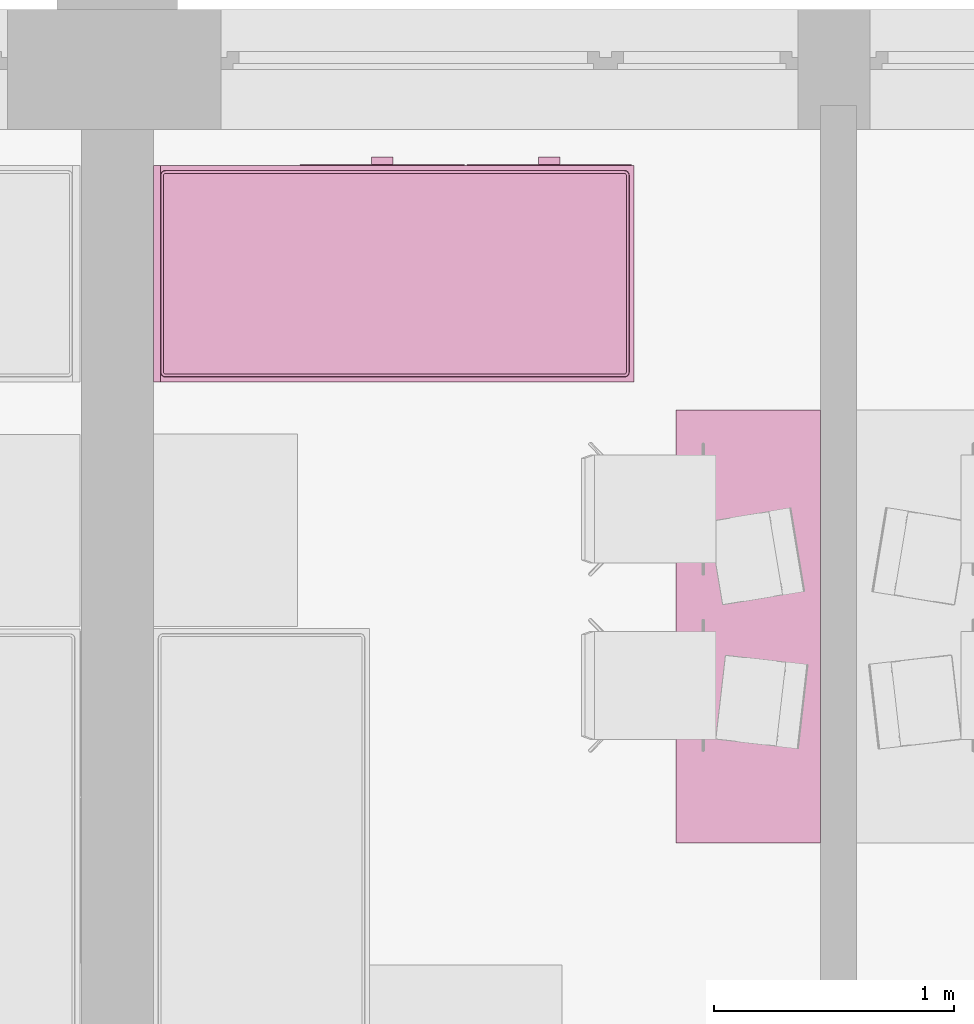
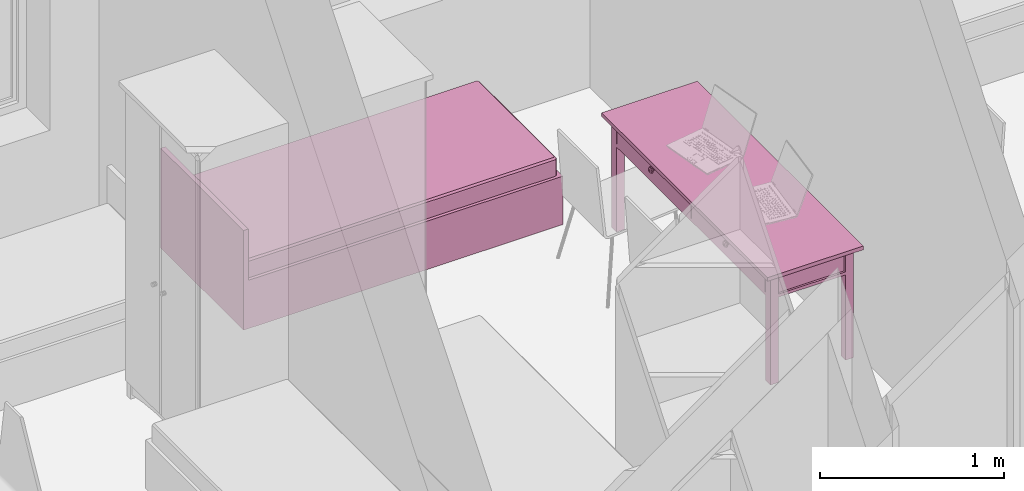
# One storey, part 92 of 165: 2 furnishings.
"""IFC2X3 building model written with IfcOpenShell, lengths in millimetres."""

from ifc_helpers import new_model, entity, si_unit, converted_unit, money_unit, direction, frame, origin_with_axes, place, context, subcontext, project, spatial, faceted_brep, source, transform, mapped, material, material_list, type_object, element, save


model = new_model("IFC2X3")

# Units and contexts
model_context = context("Model", 3, precision=1e-05, world=origin_with_axes(), true_north=direction((0.0, 1.0)))
body_context = subcontext(model_context, "Body", "Model", "MODEL_VIEW")
ifc_project = project(units=[si_unit("LENGTHUNIT", "METRE", prefix="MILLI"), si_unit("AREAUNIT", "SQUARE_METRE"), si_unit("VOLUMEUNIT", "CUBIC_METRE"), converted_unit("PLANEANGLEUNIT", "DEGREE", entity("IfcPlaneAngleMeasure", 0.0174532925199), si_unit("PLANEANGLEUNIT", "RADIAN"), dimensions=[0, 0, 0, 0, 0, 0, 0]), si_unit("SOLIDANGLEUNIT", "STERADIAN"), money_unit("USD"), converted_unit("TIMEUNIT", "Year", entity("IfcTimeMeasure", 31556926.0), si_unit("TIMEUNIT", "SECOND"), dimensions=[0, 0, 0, 0, 0, 0, 0]), si_unit("MASSUNIT", "GRAM"), si_unit("THERMODYNAMICTEMPERATUREUNIT", "DEGREE_CELSIUS"), si_unit("LUMINOUSINTENSITYUNIT", "LUMEN")], contexts=[model_context])

# Site, building, storey
site_placement = place(None, origin_with_axes())
site = spatial("IfcSite", under=ifc_project, at=site_placement, Name="Site", CompositionType="ELEMENT")
building_placement = place(site_placement, origin_with_axes())
building = spatial("IfcBuilding", under=site, at=building_placement, Name="Building", CompositionType="ELEMENT")
storey_placement = place(building_placement, frame((0.0, 0.0, 6300.0), z_axis=(0.0, 0.0, 1.0), x_axis=(1.0, 0.0, 0.0)))
storey = spatial("IfcBuildingStorey", under=building, at=storey_placement, Name="4KORRUS", CompositionType="ELEMENT", Elevation=6300.0)

# Furnishings
ifc_material = material(Name="Background")
ifc_material_list = material_list([ifc_material])
furnishing_element_type_1 = type_object("IfcFurnishingElementType", Name="Bed 19")
shared_shape_1 = source(origin_with_axes(), body_context, "Body", "Brep", [
    faceted_brep([(900.0, 1970.0, 0.0), (0.0, 1970.0, 0.0), (0.0, 2000.0, 0.0), (900.0, 2000.0, 0.0), (900.0, 1970.0, 660.0), (0.0, 1970.0, 660.0), (0.0, 2000.0, 660.0), (900.0, 2000.0, 660.0)], [[[0, 1, 2, 3]], [[1, 0, 4, 5]], [[2, 1, 5, 6]], [[3, 2, 6, 7]], [[0, 3, 7, 4]], [[5, 4, 7, 6]]]),
    faceted_brep([(900.0, 0.0, 0.0), (0.0, 0.0, 0.0), (0.0, 1970.0, 0.0), (900.0, 1970.0, 0.0), (900.0, 0.0, 320.0), (0.0, 0.0, 320.0), (0.0, 1970.0, 320.0), (900.0, 1970.0, 320.0)], [[[0, 1, 2, 3]], [[1, 0, 4, 5]], [[2, 1, 5, 6]], [[3, 2, 6, 7]], [[0, 3, 7, 4]], [[5, 4, 7, 6]]]),
    faceted_brep([(905.0, 10.0, 30.0), (900.0, 10.0, 30.0), (900.0, 695.0, 30.0), (905.0, 695.0, 30.0), (905.0, 10.0, 290.0), (900.0, 10.0, 290.0), (900.0, 695.0, 290.0), (905.0, 695.0, 290.0)], [[[0, 1, 2, 3]], [[1, 0, 4, 5]], [[2, 1, 5, 6]], [[3, 2, 6, 7]], [[0, 3, 7, 4]], [[5, 4, 7, 6]]]),
    faceted_brep([(935.0, 307.5, 150.0), (905.0, 307.5, 150.0), (905.0, 397.5, 150.0), (935.0, 397.5, 150.0), (935.0, 307.5, 170.0), (905.0, 307.5, 170.0), (905.0, 397.5, 170.0), (935.0, 397.5, 170.0)], [[[0, 1, 2, 3]], [[1, 0, 4, 5]], [[2, 1, 5, 6]], [[3, 2, 6, 7]], [[0, 3, 7, 4]], [[5, 4, 7, 6]]]),
    faceted_brep([(905.0, 705.0, 30.0), (900.0, 705.0, 30.0), (900.0, 1390.0, 30.0), (905.0, 1390.0, 30.0), (905.0, 705.0, 290.0), (900.0, 705.0, 290.0), (900.0, 1390.0, 290.0), (905.0, 1390.0, 290.0)], [[[0, 1, 2, 3]], [[1, 0, 4, 5]], [[2, 1, 5, 6]], [[3, 2, 6, 7]], [[0, 3, 7, 4]], [[5, 4, 7, 6]]]),
    faceted_brep([(935.0, 1002.5, 150.0), (905.0, 1002.5, 150.0), (905.0, 1092.5, 150.0), (935.0, 1092.5, 150.0), (935.0, 1002.5, 170.0), (905.0, 1002.5, 170.0), (905.0, 1092.5, 170.0), (935.0, 1092.5, 170.0)], [[[0, 1, 2, 3]], [[1, 0, 4, 5]], [[2, 1, 5, 6]], [[3, 2, 6, 7]], [[0, 3, 7, 4]], [[5, 4, 7, 6]]]),
    faceted_brep([(20.0, 40.0, 350.0), (20.0, 1950.0, 350.0), (21.522, 1957.654, 350.0), (25.858, 1964.142, 350.0), (32.346, 1968.478, 350.0), (40.0, 1970.0, 350.0), (860.0, 1970.0, 350.0), (867.654, 1968.478, 350.0), (874.142, 1964.142, 350.0), (878.478, 1957.654, 350.0), (880.0, 1950.0, 350.0), (880.0, 40.0, 350.0), (878.478, 32.346, 350.0), (874.142, 25.858, 350.0), (867.654, 21.522, 350.0), (860.0, 20.0, 350.0), (40.0, 20.0, 350.0), (32.346, 21.522, 350.0), (25.858, 25.858, 350.0), (21.522, 32.346, 350.0), (20.0, 40.0, 420.0), (20.0, 1950.0, 420.0), (21.522, 1957.654, 420.0), (25.858, 1964.142, 420.0), (32.346, 1968.478, 420.0), (40.0, 1970.0, 420.0), (860.0, 1970.0, 420.0), (867.654, 1968.478, 420.0), (874.142, 1964.142, 420.0), (878.478, 1957.654, 420.0), (880.0, 1950.0, 420.0), (880.0, 40.0, 420.0), (878.478, 32.346, 420.0), (874.142, 25.858, 420.0), (867.654, 21.522, 420.0), (860.0, 20.0, 420.0), (40.0, 20.0, 420.0), (32.346, 21.522, 420.0), (25.858, 25.858, 420.0), (21.522, 32.346, 420.0), (21.522, 40.15, 427.654), (21.522, 1949.85, 427.654), (22.956, 1957.06, 427.654), (26.955, 1963.045, 427.654), (32.94, 1967.044, 427.654), (40.15, 1968.478, 427.654), (859.85, 1968.478, 427.654), (867.06, 1967.044, 427.654), (873.045, 1963.045, 427.654), (877.044, 1957.06, 427.654), (878.478, 1949.85, 427.654), (878.478, 40.15, 427.654), (877.044, 32.94, 427.654), (873.045, 26.955, 427.654), (867.06, 22.956, 427.654), (859.85, 21.522, 427.654), (40.15, 21.522, 427.654), (32.94, 22.956, 427.654), (26.955, 26.955, 427.654), (22.956, 32.94, 427.654), (32.346, 41.216, 438.478), (32.346, 1948.784, 438.478), (33.152, 1952.836, 438.478), (34.759, 1955.241, 438.478), (37.164, 1956.848, 438.478), (41.216, 1957.654, 438.478), (858.784, 1957.654, 438.478), (862.836, 1956.848, 438.478), (865.241, 1955.241, 438.478), (866.848, 1952.836, 438.478), (867.654, 1948.784, 438.478), (867.654, 41.216, 438.478), (866.848, 37.164, 438.478), (865.241, 34.759, 438.478), (862.836, 33.152, 438.478), (858.784, 32.346, 438.478), (41.216, 32.346, 438.478), (37.164, 33.152, 438.478), (34.759, 34.759, 438.478), (33.152, 37.164, 438.478), (40.0, 41.97, 440.0), (40.0, 1948.03, 440.0), (40.327, 1949.673, 440.0), (40.0, 1950.0, 439.924), (41.97, 1950.0, 440.0), (858.03, 1950.0, 440.0), (859.673, 1949.673, 440.0), (860.0, 1950.0, 439.924), (860.0, 1948.03, 440.0), (860.0, 41.97, 440.0), (859.673, 40.327, 440.0), (860.0, 40.0, 439.924), (858.03, 40.0, 440.0), (41.97, 40.0, 440.0), (40.327, 40.327, 440.0), (40.0, 40.0, 439.924)], [[[0, 1, 2, 3, 4, 5, 6, 7, 8, 9, 10, 11, 12, 13, 14, 15, 16, 17, 18, 19]], [[1, 0, 20, 21]], [[2, 1, 21, 22]], [[3, 2, 22, 23]], [[4, 3, 23, 24]], [[5, 4, 24, 25]], [[6, 5, 25, 26]], [[7, 6, 26, 27]], [[8, 7, 27, 28]], [[9, 8, 28, 29]], [[10, 9, 29, 30]], [[11, 10, 30, 31]], [[12, 11, 31, 32]], [[13, 12, 32, 33]], [[14, 13, 33, 34]], [[15, 14, 34, 35]], [[16, 15, 35, 36]], [[17, 16, 36, 37]], [[18, 17, 37, 38]], [[19, 18, 38, 39]], [[0, 19, 39, 20]], [[21, 20, 40, 41]], [[22, 21, 41, 42]], [[23, 22, 42, 43]], [[24, 23, 43, 44]], [[25, 24, 44, 45]], [[26, 25, 45, 46]], [[27, 26, 46, 47]], [[28, 27, 47, 48]], [[29, 28, 48, 49]], [[30, 29, 49, 50]], [[31, 30, 50, 51]], [[32, 31, 51, 52]], [[33, 32, 52, 53]], [[34, 33, 53, 54]], [[35, 34, 54, 55]], [[36, 35, 55, 56]], [[37, 36, 56, 57]], [[38, 37, 57, 58]], [[39, 38, 58, 59]], [[20, 39, 59, 40]], [[41, 40, 60, 61]], [[42, 41, 61, 62]], [[43, 42, 62, 63]], [[44, 43, 63, 64]], [[45, 44, 64, 65]], [[46, 45, 65, 66]], [[47, 46, 66, 67]], [[48, 47, 67, 68]], [[49, 48, 68, 69]], [[50, 49, 69, 70]], [[51, 50, 70, 71]], [[52, 51, 71, 72]], [[53, 52, 72, 73]], [[54, 53, 73, 74]], [[55, 54, 74, 75]], [[56, 55, 75, 76]], [[57, 56, 76, 77]], [[58, 57, 77, 78]], [[59, 58, 78, 79]], [[40, 59, 79, 60]], [[61, 60, 80, 81]], [[62, 61, 81, 82, 83]], [[63, 62, 83]], [[64, 63, 83]], [[65, 64, 83, 82, 84]], [[66, 65, 84, 85]], [[67, 66, 85, 86, 87]], [[68, 67, 87]], [[69, 68, 87]], [[70, 69, 87, 86, 88]], [[71, 70, 88, 89]], [[72, 71, 89, 90, 91]], [[73, 72, 91]], [[74, 73, 91]], [[75, 74, 91, 90, 92]], [[76, 75, 92, 93]], [[77, 76, 93, 94, 95]], [[78, 77, 95]], [[79, 78, 95]], [[60, 79, 95, 94, 80]], [[81, 80, 94, 93, 92, 90, 89, 88, 86, 85, 84, 82]]]),
    faceted_brep([(20.0, 40.0, 350.0), (21.522, 32.346, 350.0), (25.858, 25.858, 350.0), (32.346, 21.522, 350.0), (40.0, 20.0, 350.0), (860.0, 20.0, 350.0), (867.654, 21.522, 350.0), (874.142, 25.858, 350.0), (878.478, 32.346, 350.0), (880.0, 40.0, 350.0), (880.0, 1950.0, 350.0), (878.478, 1957.654, 350.0), (874.142, 1964.142, 350.0), (867.654, 1968.478, 350.0), (860.0, 1970.0, 350.0), (40.0, 1970.0, 350.0), (32.346, 1968.478, 350.0), (25.858, 1964.142, 350.0), (21.522, 1957.654, 350.0), (20.0, 1950.0, 350.0), (20.0, 40.0, 320.0), (21.522, 32.346, 320.0), (25.858, 25.858, 320.0), (32.346, 21.522, 320.0), (40.0, 20.0, 320.0), (860.0, 20.0, 320.0), (867.654, 21.522, 320.0), (874.142, 25.858, 320.0), (878.478, 32.346, 320.0), (880.0, 40.0, 320.0), (880.0, 1950.0, 320.0), (878.478, 1957.654, 320.0), (874.142, 1964.142, 320.0), (867.654, 1968.478, 320.0), (860.0, 1970.0, 320.0), (40.0, 1970.0, 320.0), (32.346, 1968.478, 320.0), (25.858, 1964.142, 320.0), (21.522, 1957.654, 320.0), (20.0, 1950.0, 320.0)], [[[0, 1, 2, 3, 4, 5, 6, 7, 8, 9, 10, 11, 12, 13, 14, 15, 16, 17, 18, 19]], [[0, 20, 21, 1]], [[1, 21, 22, 2]], [[2, 22, 23, 3]], [[3, 23, 24, 4]], [[4, 24, 25, 5]], [[5, 25, 26, 6]], [[6, 26, 27, 7]], [[7, 27, 28, 8]], [[8, 28, 29, 9]], [[9, 29, 30, 10]], [[10, 30, 31, 11]], [[11, 31, 32, 12]], [[12, 32, 33, 13]], [[13, 33, 34, 14]], [[14, 34, 35, 15]], [[15, 35, 36, 16]], [[16, 36, 37, 17]], [[17, 37, 38, 18]], [[18, 38, 39, 19]], [[19, 39, 20, 0]], [[20, 39, 38, 37, 36, 35, 34, 33, 32, 31, 30, 29, 28, 27, 26, 25, 24, 23, 22, 21]]]),
])
furnishing_1_placement = place(storey_placement, frame((-33990.2967033, -6189.6041088, 0.0), z_axis=(0.0, 0.0, 1.0), x_axis=(0.0, 1.0, 0.0)))
element("IfcFurnishingElement", 1, at=furnishing_1_placement, inside=storey, type_object=furnishing_element_type_1, material=ifc_material_list, Name="FU - 013", context=body_context, shape_type="MappedRepresentation", body=[
    mapped(shared_shape_1, transform((0.0, 0.0, 0.0))),
])
furnishing_element_type_2 = type_object("IfcFurnishingElementType", Name="Rectangular Table 01 19")
shared_shape_2 = source(origin_with_axes(), body_context, "Body", "Brep", [
    faceted_brep([(90.0, 40.0, 0.0), (40.0, 40.0, 0.0), (40.0, 90.0, 0.0), (90.0, 90.0, 0.0), (90.0, 40.0, 725.0), (40.0, 40.0, 725.0), (40.0, 90.0, 725.0), (90.0, 90.0, 725.0)], [[[0, 1, 2, 3]], [[1, 0, 4, 5]], [[2, 1, 5, 6]], [[3, 2, 6, 7]], [[0, 3, 7, 4]], [[5, 4, 7, 6]]]),
    faceted_brep([(1760.0, 40.0, 0.0), (1710.0, 40.0, 0.0), (1710.0, 90.0, 0.0), (1760.0, 90.0, 0.0), (1760.0, 40.0, 725.0), (1710.0, 40.0, 725.0), (1710.0, 90.0, 725.0), (1760.0, 90.0, 725.0)], [[[0, 1, 2, 3]], [[1, 0, 4, 5]], [[2, 1, 5, 6]], [[3, 2, 6, 7]], [[0, 3, 7, 4]], [[5, 4, 7, 6]]]),
    faceted_brep([(90.0, 510.0, 0.0), (40.0, 510.0, 0.0), (40.0, 560.0, 0.0), (90.0, 560.0, 0.0), (90.0, 510.0, 725.0), (40.0, 510.0, 725.0), (40.0, 560.0, 725.0), (90.0, 560.0, 725.0)], [[[0, 1, 2, 3]], [[1, 0, 4, 5]], [[2, 1, 5, 6]], [[3, 2, 6, 7]], [[0, 3, 7, 4]], [[5, 4, 7, 6]]]),
    faceted_brep([(1760.0, 510.0, 0.0), (1710.0, 510.0, 0.0), (1710.0, 560.0, 0.0), (1760.0, 560.0, 0.0), (1760.0, 510.0, 725.0), (1710.0, 510.0, 725.0), (1710.0, 560.0, 725.0), (1760.0, 560.0, 725.0)], [[[0, 1, 2, 3]], [[1, 0, 4, 5]], [[2, 1, 5, 6]], [[3, 2, 6, 7]], [[0, 3, 7, 4]], [[5, 4, 7, 6]]]),
    faceted_brep([(1760.0, 40.0, 565.0), (40.0, 40.0, 565.0), (40.0, 560.0, 565.0), (1760.0, 560.0, 565.0), (1760.0, 40.0, 585.0), (40.0, 40.0, 585.0), (40.0, 560.0, 585.0), (1760.0, 560.0, 585.0)], [[[0, 1, 2, 3]], [[1, 0, 4, 5]], [[2, 1, 5, 6]], [[3, 2, 6, 7]], [[0, 3, 7, 4]], [[5, 4, 7, 6]]]),
    faceted_brep([(1710.0, 52.5, 585.0), (90.0, 52.5, 585.0), (90.0, 77.5, 585.0), (1710.0, 77.5, 585.0), (1710.0, 52.5, 745.0), (90.0, 52.5, 745.0), (90.0, 77.5, 745.0), (1710.0, 77.5, 745.0)], [[[0, 1, 2, 3]], [[1, 0, 4, 5]], [[2, 1, 5, 6]], [[3, 2, 6, 7]], [[0, 3, 7, 4]], [[5, 4, 7, 6]]]),
    faceted_brep([(77.5, 90.0, 585.0), (52.5, 90.0, 585.0), (52.5, 510.0, 585.0), (77.5, 510.0, 585.0), (77.5, 90.0, 745.0), (52.5, 90.0, 745.0), (52.5, 510.0, 745.0), (77.5, 510.0, 745.0)], [[[0, 1, 2, 3]], [[1, 0, 4, 5]], [[2, 1, 5, 6]], [[3, 2, 6, 7]], [[0, 3, 7, 4]], [[5, 4, 7, 6]]]),
    faceted_brep([(90.0, 547.5, 585.0), (1710.0, 547.5, 585.0), (1710.0, 522.5, 585.0), (90.0, 522.5, 585.0), (90.0, 547.5, 745.0), (1710.0, 547.5, 745.0), (1710.0, 522.5, 745.0), (90.0, 522.5, 745.0)], [[[0, 1, 2, 3]], [[1, 0, 4, 5]], [[2, 1, 5, 6]], [[3, 2, 6, 7]], [[0, 3, 7, 4]], [[5, 4, 7, 6]]]),
    faceted_brep([(1722.5, 510.0, 585.0), (1747.5, 510.0, 585.0), (1747.5, 90.0, 585.0), (1722.5, 90.0, 585.0), (1722.5, 510.0, 745.0), (1747.5, 510.0, 745.0), (1747.5, 90.0, 745.0), (1722.5, 90.0, 745.0)], [[[0, 1, 2, 3]], [[1, 0, 4, 5]], [[2, 1, 5, 6]], [[3, 2, 6, 7]], [[0, 3, 7, 4]], [[5, 4, 7, 6]]]),
    faceted_brep([(897.5, 40.0, 585.0), (95.0, 40.0, 585.0), (95.0, 60.0, 585.0), (897.5, 60.0, 585.0), (897.5, 40.0, 745.0), (95.0, 40.0, 745.0), (95.0, 60.0, 745.0), (897.5, 60.0, 745.0)], [[[0, 1, 2, 3]], [[1, 0, 4, 5]], [[2, 1, 5, 6]], [[3, 2, 6, 7]], [[0, 3, 7, 4]], [[5, 4, 7, 6]]]),
    faceted_brep([(1705.0, 40.0, 585.0), (902.5, 40.0, 585.0), (902.5, 60.0, 585.0), (1705.0, 60.0, 585.0), (1705.0, 40.0, 745.0), (902.5, 40.0, 745.0), (902.5, 60.0, 745.0), (1705.0, 60.0, 745.0)], [[[0, 1, 2, 3]], [[1, 0, 4, 5]], [[2, 1, 5, 6]], [[3, 2, 6, 7]], [[0, 3, 7, 4]], [[5, 4, 7, 6]]]),
    faceted_brep([(504.91, 40.0, 660.0), (501.25, 40.0, 656.34), (496.25, 40.0, 655.0), (491.25, 40.0, 656.34), (487.59, 40.0, 660.0), (486.25, 40.0, 665.0), (487.59, 40.0, 670.0), (491.25, 40.0, 673.66), (496.25, 40.0, 675.0), (501.25, 40.0, 673.66), (504.91, 40.0, 670.0), (506.25, 40.0, 665.0), (504.91, 25.0, 660.0), (501.25, 25.0, 656.34), (496.25, 25.0, 655.0), (491.25, 25.0, 656.34), (487.59, 25.0, 660.0), (486.25, 25.0, 665.0), (487.59, 25.0, 670.0), (491.25, 25.0, 673.66), (496.25, 25.0, 675.0), (501.25, 25.0, 673.66), (504.91, 25.0, 670.0), (506.25, 25.0, 665.0)], [[[0, 1, 2, 3, 4, 5, 6, 7, 8, 9, 10, 11]], [[1, 0, 12, 13]], [[2, 1, 13, 14]], [[3, 2, 14, 15]], [[4, 3, 15, 16]], [[5, 4, 16, 17]], [[6, 5, 17, 18]], [[7, 6, 18, 19]], [[8, 7, 19, 20]], [[9, 8, 20, 21]], [[10, 9, 21, 22]], [[11, 10, 22, 23]], [[0, 11, 23, 12]], [[12, 23, 22, 21, 20, 19, 18, 17, 16, 15, 14, 13]]]),
    faceted_brep([(506.25, 12.01, 665.0), (496.25, 10.0, 665.0), (504.91, 12.01, 660.0), (504.91, 12.01, 670.0), (501.25, 12.01, 656.34), (513.571, 17.5, 665.0), (511.25, 17.5, 656.34), (501.25, 12.01, 673.66), (511.25, 17.5, 673.66), (496.25, 12.01, 655.0), (504.91, 17.5, 650.0), (516.25, 25.0, 665.0), (513.571, 25.0, 655.0), (496.25, 12.01, 675.0), (504.91, 17.5, 680.0), (513.571, 25.0, 675.0), (491.25, 12.01, 656.34), (496.25, 17.5, 647.679), (506.25, 25.0, 647.679), (496.25, 25.0, 645.0), (486.25, 25.0, 647.679), (478.929, 25.0, 655.0), (476.25, 25.0, 665.0), (478.929, 25.0, 675.0), (486.25, 25.0, 682.321), (496.25, 25.0, 685.0), (506.25, 25.0, 682.321), (491.25, 12.01, 673.66), (496.25, 17.5, 682.321), (487.59, 12.01, 660.0), (487.59, 17.5, 650.0), (481.25, 17.5, 656.34), (478.929, 17.5, 665.0), (481.25, 17.5, 673.66), (487.59, 17.5, 680.0), (487.59, 12.01, 670.0), (486.25, 12.01, 665.0)], [[[0, 1, 2]], [[3, 1, 0]], [[2, 1, 4]], [[5, 0, 2, 6]], [[7, 1, 3]], [[8, 3, 0, 5]], [[4, 1, 9]], [[6, 2, 4, 10]], [[11, 5, 6, 12]], [[13, 1, 7]], [[14, 7, 3, 8]], [[15, 8, 5, 11]], [[9, 1, 16]], [[10, 4, 9, 17]], [[12, 6, 10, 18]], [[12, 18, 19, 20, 21, 22, 23, 24, 25, 26, 15, 11]], [[27, 1, 13]], [[28, 13, 7, 14]], [[26, 14, 8, 15]], [[16, 1, 29]], [[17, 9, 16, 30]], [[18, 10, 17, 19]], [[19, 17, 30, 20]], [[20, 30, 31, 21]], [[21, 31, 32, 22]], [[22, 32, 33, 23]], [[23, 33, 34, 24]], [[24, 34, 28, 25]], [[25, 28, 14, 26]], [[35, 1, 27]], [[34, 27, 13, 28]], [[29, 1, 36]], [[30, 16, 29, 31]], [[31, 29, 36, 32]], [[32, 36, 35, 33]], [[33, 35, 27, 34]], [[36, 1, 35]]]),
    faceted_brep([(1312.41, 40.0, 660.0), (1308.75, 40.0, 656.34), (1303.75, 40.0, 655.0), (1298.75, 40.0, 656.34), (1295.09, 40.0, 660.0), (1293.75, 40.0, 665.0), (1295.09, 40.0, 670.0), (1298.75, 40.0, 673.66), (1303.75, 40.0, 675.0), (1308.75, 40.0, 673.66), (1312.41, 40.0, 670.0), (1313.75, 40.0, 665.0), (1312.41, 25.0, 660.0), (1308.75, 25.0, 656.34), (1303.75, 25.0, 655.0), (1298.75, 25.0, 656.34), (1295.09, 25.0, 660.0), (1293.75, 25.0, 665.0), (1295.09, 25.0, 670.0), (1298.75, 25.0, 673.66), (1303.75, 25.0, 675.0), (1308.75, 25.0, 673.66), (1312.41, 25.0, 670.0), (1313.75, 25.0, 665.0)], [[[0, 1, 2, 3, 4, 5, 6, 7, 8, 9, 10, 11]], [[1, 0, 12, 13]], [[2, 1, 13, 14]], [[3, 2, 14, 15]], [[4, 3, 15, 16]], [[5, 4, 16, 17]], [[6, 5, 17, 18]], [[7, 6, 18, 19]], [[8, 7, 19, 20]], [[9, 8, 20, 21]], [[10, 9, 21, 22]], [[11, 10, 22, 23]], [[0, 11, 23, 12]], [[12, 23, 22, 21, 20, 19, 18, 17, 16, 15, 14, 13]]]),
    faceted_brep([(1313.75, 12.01, 665.0), (1303.75, 10.0, 665.0), (1312.41, 12.01, 660.0), (1312.41, 12.01, 670.0), (1308.75, 12.01, 656.34), (1321.071, 17.5, 665.0), (1318.75, 17.5, 656.34), (1308.75, 12.01, 673.66), (1318.75, 17.5, 673.66), (1303.75, 12.01, 655.0), (1312.41, 17.5, 650.0), (1323.75, 25.0, 665.0), (1321.071, 25.0, 655.0), (1303.75, 12.01, 675.0), (1312.41, 17.5, 680.0), (1321.071, 25.0, 675.0), (1298.75, 12.01, 656.34), (1303.75, 17.5, 647.679), (1313.75, 25.0, 647.679), (1303.75, 25.0, 645.0), (1293.75, 25.0, 647.679), (1286.429, 25.0, 655.0), (1283.75, 25.0, 665.0), (1286.429, 25.0, 675.0), (1293.75, 25.0, 682.321), (1303.75, 25.0, 685.0), (1313.75, 25.0, 682.321), (1298.75, 12.01, 673.66), (1303.75, 17.5, 682.321), (1295.09, 12.01, 660.0), (1295.09, 17.5, 650.0), (1288.75, 17.5, 656.34), (1286.429, 17.5, 665.0), (1288.75, 17.5, 673.66), (1295.09, 17.5, 680.0), (1295.09, 12.01, 670.0), (1293.75, 12.01, 665.0)], [[[0, 1, 2]], [[3, 1, 0]], [[2, 1, 4]], [[5, 0, 2, 6]], [[7, 1, 3]], [[8, 3, 0, 5]], [[4, 1, 9]], [[6, 2, 4, 10]], [[11, 5, 6, 12]], [[13, 1, 7]], [[14, 7, 3, 8]], [[15, 8, 5, 11]], [[9, 1, 16]], [[10, 4, 9, 17]], [[12, 6, 10, 18]], [[12, 18, 19, 20, 21, 22, 23, 24, 25, 26, 15, 11]], [[27, 1, 13]], [[28, 13, 7, 14]], [[26, 14, 8, 15]], [[16, 1, 29]], [[17, 9, 16, 30]], [[18, 10, 17, 19]], [[19, 17, 30, 20]], [[20, 30, 31, 21]], [[21, 31, 32, 22]], [[22, 32, 33, 23]], [[23, 33, 34, 24]], [[24, 34, 28, 25]], [[25, 28, 14, 26]], [[35, 1, 27]], [[34, 27, 13, 28]], [[29, 1, 36]], [[30, 16, 29, 31]], [[31, 29, 36, 32]], [[32, 36, 35, 33]], [[33, 35, 27, 34]], [[36, 1, 35]]]),
    faceted_brep([(1800.0, 0.0, 725.0), (0.0, 0.0, 725.0), (0.0, 600.0, 725.0), (1800.0, 600.0, 725.0), (1800.0, 0.0, 750.0), (0.0, 0.0, 750.0), (0.0, 600.0, 750.0), (1800.0, 600.0, 750.0)], [[[0, 1, 2, 3]], [[1, 0, 4, 5]], [[2, 1, 5, 6]], [[3, 2, 6, 7]], [[0, 3, 7, 4]], [[5, 4, 7, 6]]]),
])
furnishing_2_placement = place(storey_placement, frame((-33815.7435229, -6307.26955348, 0.0), z_axis=(0.0, 0.0, 1.0), x_axis=(0.0, -1.0, 0.0)))
element("IfcFurnishingElement", 2, at=furnishing_2_placement, inside=storey, type_object=furnishing_element_type_2, material=ifc_material_list, Name="FU - 011", context=body_context, shape_type="MappedRepresentation", body=[
    mapped(shared_shape_2, transform((0.0, 0.0, 0.0))),
])

save(model, "model.ifc")
